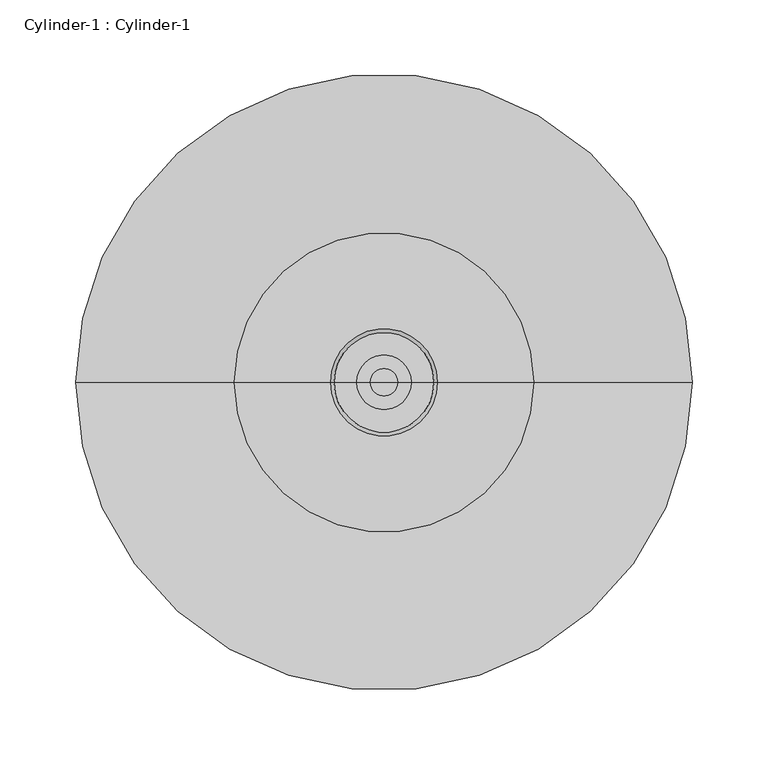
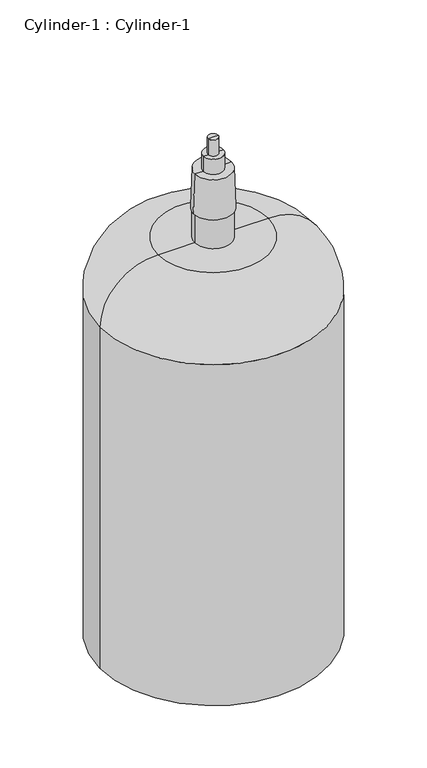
"""IFC4 building model written with IfcOpenShell, lengths in millimetres: alarm geometry, Cylinder-1 : Cylinder-1."""

from ifc_helpers import new_model, si_unit, point, frame, origin, place, context, project, spatial, polyline, circle_curve, ellipse_curve, trimmed, source, transform, mapped, element, save
from ifc_brep_helpers import plane_surface, cylinder_surface, revolved_surface, advanced_brep


def cylinder_1_cylinder_1_5c930a60(model_context):
    return source(origin(), model_context, "Body", "AdvancedBrep", [
        advanced_brep(
        [(9.0219829, 0.0, 906.6426081), (-9.0219829, 0.0, 906.6426081), (-9.0219829, 0.0, 936.75), (9.0219829, 0.0, 936.75), (17.9261315, 0.0, 906.6426081), (-17.9261315, 0.0, 906.6426081), (17.9261315, 0.0, 878.25926), (-17.9261315, 0.0, 878.25926), (32.9524445, 0.0, 878.25926), (-32.9524445, 0.0, 878.25926), (35.2648942, 0.0, 803.777946), (-35.2648942, 0.0, 803.777946), (33.1140302, 0.0, 803.777946), (-33.1140302, 0.0, 803.777946), (33.1817509, 0.0, 748.0909881), (-33.1817509, 0.0, 748.0909881), (0.0, 0.0, 748.0909881), (0.0, 0.0, 936.75)],
        [
            (0, 1, circle_curve(frame((0.0, 0.0, 906.6426081), z_axis=(0.0, 0.0, 1.0), x_axis=(-1.0, 0.0, 0.0)), 9.0219829)),
            (1, 2),
            (2, 3, circle_curve(frame((0.0, 0.0, 936.75), z_axis=(0.0, 0.0, -1.0), x_axis=(-1.0, 0.0, 0.0)), 9.0219829)),
            (3, 0),
            (1, 0, circle_curve(frame((0.0, 0.0, 906.6426081), z_axis=(0.0, 0.0, 1.0), x_axis=(-1.0, 0.0, 0.0)), 9.0219829)),
            (3, 2, circle_curve(frame((0.0, 0.0, 936.75), z_axis=(0.0, 0.0, -1.0), x_axis=(-1.0, 0.0, 0.0)), 9.0219829)),
            (4, 5, circle_curve(frame((0.0, 0.0, 906.6426081), z_axis=(0.0, 0.0, 1.0), x_axis=(-1.0, 0.0, 0.0)), 17.9261315)),
            (5, 1),
            (0, 4),
            (5, 4, circle_curve(frame((0.0, 0.0, 906.6426081), z_axis=(0.0, 0.0, 1.0), x_axis=(-1.0, 0.0, 0.0)), 17.9261315)),
            (6, 7, circle_curve(frame((0.0, 0.0, 878.25926), z_axis=(0.0, 0.0, 1.0), x_axis=(-1.0, 0.0, 0.0)), 17.9261315)),
            (7, 5),
            (4, 6),
            (7, 6, circle_curve(frame((0.0, 0.0, 878.25926), z_axis=(0.0, 0.0, 1.0), x_axis=(-1.0, 0.0, 0.0)), 17.9261315)),
            (8, 9, circle_curve(frame((0.0, 0.0, 878.25926), z_axis=(0.0, 0.0, 1.0), x_axis=(-1.0, 0.0, 0.0)), 32.9524445)),
            (9, 7),
            (6, 8),
            (9, 8, circle_curve(frame((0.0, 0.0, 878.25926), z_axis=(0.0, 0.0, 1.0), x_axis=(-1.0, 0.0, 0.0)), 32.9524445)),
            (10, 11, circle_curve(frame((0.0, 0.0, 803.777946), z_axis=(0.0, 0.0, 1.0), x_axis=(-1.0, 0.0, 0.0)), 35.2648942)),
            (11, 9),
            (8, 10),
            (11, 10, circle_curve(frame((0.0, 0.0, 803.777946), z_axis=(0.0, 0.0, 1.0), x_axis=(-1.0, 0.0, 0.0)), 35.2648942)),
            (12, 13, circle_curve(frame((0.0, 0.0, 803.777946), z_axis=(0.0, 0.0, 1.0), x_axis=(-1.0, 0.0, 0.0)), 33.1140302)),
            (13, 11),
            (10, 12),
            (13, 12, circle_curve(frame((0.0, 0.0, 803.777946), z_axis=(0.0, 0.0, 1.0), x_axis=(-1.0, 0.0, 0.0)), 33.1140302)),
            (14, 15, circle_curve(frame((0.0, 0.0, 748.0909881), z_axis=(0.0, 0.0, 1.0), x_axis=(-1.0, 0.0, 0.0)), 33.1817509)),
            (15, 13),
            (12, 14),
            (15, 14, circle_curve(frame((0.0, 0.0, 748.0909881), z_axis=(0.0, 0.0, 1.0), x_axis=(-1.0, 0.0, 0.0)), 33.1817509)),
            (16, 15),
            (14, 16),
            (2, 17),
            (17, 3),
        ],
        [
            cylinder_surface(frame((0.0, 0.0, 1091.0996609), z_axis=(0.0, 0.0, -1.0), x_axis=(-1.0, 0.0, 0.0)), 9.0219829),
            plane_surface(frame((0.0, 0.0, 906.6426081), z_axis=(0.0, 0.0, 1.0), x_axis=(-1.0, 0.0, 0.0))),
            cylinder_surface(frame((0.0, 0.0, 1091.0996609), z_axis=(0.0, 0.0, -1.0), x_axis=(-1.0, 0.0, 0.0)), 17.9261315),
            plane_surface(frame((0.0, 0.0, 878.25926), z_axis=(0.0, 0.0, 1.0), x_axis=(-1.0, 0.0, 0.0))),
            revolved_surface(polyline([(-32.9524445, 0.0, 878.25926), (-35.2648942, 0.0, 803.777946)]), (0.0, 0.0, 1091.0996609), (0.0, 0.0, -1.0)),
            plane_surface(frame((0.0, 0.0, 803.777946), z_axis=(0.0, 0.0, -1.0), x_axis=(-1.0, 0.0, 0.0))),
            cylinder_surface(frame((0.0, 0.0, 1091.0996609), z_axis=(0.0, 0.0, -1.0), x_axis=(-1.0, 0.0, 0.0)), 33.1817509),
            plane_surface(frame((0.0, 0.0, 748.0909881), z_axis=(0.0, 0.0, -1.0), x_axis=(-1.0, 0.0, 0.0))),
            plane_surface(frame((0.0, 0.0, 936.75), z_axis=(0.0, 0.0, 1.0), x_axis=(-1.0, 0.0, 0.0))),
        ],
        [
            (0, [[1, 2, 3, 4]]),
            (0, [[5, -4, 6, -2]]),
            (1, [[7, 8, -1, 9]]),
            (1, [[10, -9, -5, -8]]),
            (2, [[11, 12, -7, 13]]),
            (2, [[14, -13, -10, -12]]),
            (3, [[15, 16, -11, 17]]),
            (3, [[18, -17, -14, -16]]),
            (4, [[19, 20, -15, 21]]),
            (4, [[22, -21, -18, -20]]),
            (5, [[23, 24, -19, 25]]),
            (5, [[26, -25, -22, -24]]),
            (6, [[27, 28, -23, 29]]),
            (6, [[30, -29, -26, -28]]),
            (7, [[31, -27, 32]]),
            (7, [[-32, -30, -31]]),
            (8, [[-3, 33, 34]]),
            (8, [[-6, -34, -33]]),
        ],
    ),
        advanced_brep(
        [(0.0, 0.0, 0.0), (-203.2, 0.0, 0.0), (203.2, 0.0, 0.0), (-203.2, 0.0, 646.918714), (203.2, 0.0, 646.918714), (98.5833363, 0.0, 748.0909881), (-98.5833363, 0.0, 748.0909881), (0.0, 0.0, 748.0909881)],
        [
            (0, 1),
            (1, 2, circle_curve(frame((0.0, 0.0, 0.0), z_axis=(0.0, 0.0, -1.0), x_axis=(-1.0, 0.0, 0.0)), 203.2)),
            (2, 0),
            (2, 1, circle_curve(frame((0.0, 0.0, 0.0), z_axis=(0.0, 0.0, -1.0), x_axis=(-1.0, 0.0, 0.0)), 203.2)),
            (1, 3),
            (3, 4, circle_curve(frame((0.0, 0.0, 646.918714), z_axis=(0.0, 0.0, -1.0), x_axis=(-1.0, 0.0, 0.0)), 203.2)),
            (4, 2),
            (4, 3, circle_curve(frame((0.0, 0.0, 646.918714), z_axis=(0.0, 0.0, -1.0), x_axis=(-1.0, 0.0, 0.0)), 203.2)),
            (5, 6, circle_curve(frame((0.0, 0.0, 748.0909881), z_axis=(0.0, 0.0, 1.0), x_axis=(-1.0, 0.0, 0.0)), 98.5833363)),
            (6, 7),
            (7, 5),
            (6, 5, circle_curve(frame((0.0, 0.0, 748.0909881), z_axis=(0.0, 0.0, 1.0), x_axis=(-1.0, 0.0, 0.0)), 98.5833363)),
            (3, 6, circle_curve(frame((-101.9710246, 0.0, 646.918714), z_axis=(0.0, 1.0, 0.0), x_axis=(1.0, 0.0, 0.0)), 101.2289754)),
            (5, 4, circle_curve(frame((101.9710246, 0.0, 646.918714), z_axis=(0.0, 1.0, 0.0), x_axis=(-1.0, 0.0, 0.0)), 101.2289754)),
        ],
        [
            plane_surface(frame((0.0, 0.0, 0.0), z_axis=(0.0, 0.0, -1.0), x_axis=(-1.0, 0.0, 0.0))),
            cylinder_surface(frame((0.0, 0.0, 586.172274), z_axis=(0.0, 0.0, -1.0), x_axis=(-1.0, 0.0, 0.0)), 203.2),
            plane_surface(frame((0.0, 0.0, 748.0909881), z_axis=(0.0, 0.0, 1.0), x_axis=(-1.0, 0.0, 0.0))),
            revolved_surface(trimmed(ellipse_curve(frame((-101.9710246, 0.0, 646.918714), z_axis=(0.0, -1.0, 0.0), x_axis=(1.0, 0.0, 0.0)), 101.2289754, 101.2289754), [point((-98.5833363, 0.0, 748.0909881))], [point((-203.2, 0.0, 646.918714))], True, "CARTESIAN"), (0.0, 0.0, 586.172274), (0.0, 0.0, -1.0)),
        ],
        [
            (0, [[1, 2, 3]]),
            (0, [[-3, 4, -1]]),
            (1, [[-2, 5, 6, 7]]),
            (1, [[-4, -7, 8, -5]]),
            (2, [[9, 10, 11]]),
            (2, [[12, -11, -10]]),
            (3, [[-6, 13, -9, 14]]),
            (3, [[-8, -14, -12, -13]]),
        ],
    ),
    ])


if __name__ == "__main__":
    model = new_model("IFC4")
    model_context = context("Model", 3, world=origin())
    ifc_project = project(units=[si_unit("LENGTHUNIT", "METRE", prefix="MILLI")], contexts=[model_context])
    site = spatial("IfcSite", under=ifc_project)
    building = spatial("IfcBuilding", under=site)
    placement = place(None, origin())
    cylinder_1_cylinder_1_shape = cylinder_1_cylinder_1_5c930a60(model_context)
    element("IfcAlarm", 1, ObjectType="Cylinder-1 : Cylinder-1", at=placement, inside=building, context=model_context, shape_type="MappedRepresentation", body=[
        mapped(cylinder_1_cylinder_1_shape, transform((0.0, 0.0, 0.0), x_axis=(1.0, 0.0, 0.0), y_axis=(0.0, 1.0, 0.0), z_axis=(0.0, 0.0, 1.0))),
    ])
    save(model, "model.ifc")
